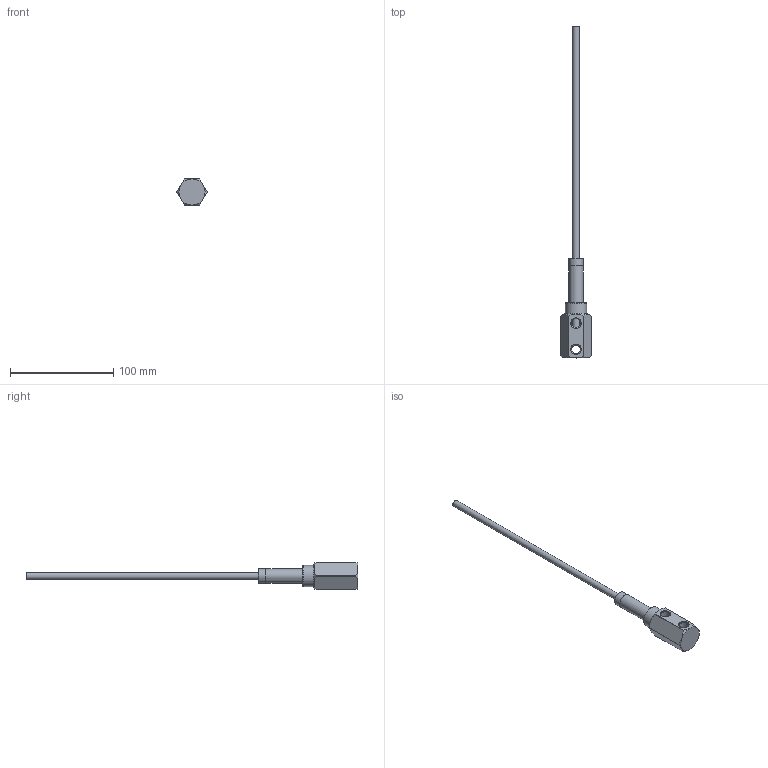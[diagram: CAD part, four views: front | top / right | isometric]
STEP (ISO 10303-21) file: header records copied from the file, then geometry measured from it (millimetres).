
FILE_DESCRIPTION(/* description */ (''),/* implementation_level */ '2;1');
FILE_NAME(/* name */ 'C:/Users/drich/Desktop/141N-HFT v1.step',/* time_stamp */ '2020-01-15T19:37:09-06:00',/* author */ (''),/* organization */ (''),/* preprocessor_version */ 'ST-DEVELOPER v18',/* originating_system */ 'Autodesk Translation Framework v8.12.0.6',/* authorisation */ '');
FILE_SCHEMA (('AUTOMOTIVE_DESIGN { 1 0 10303 214 3 1 1 }'));
Length unit declared in the file: inch
Products named in the file (4): 141N-HFT; 141H; SSPN14-2; HF250T-12
Assembly tree (3 placements, depth 2):
  141N-HFT
    141H
    SSPN14-2
    HF250T-12
Bounding box: 29.26 x 321.39 x 25.4 mm (x, y, z)
Volume: 27509.7 mm3; surface area: 22817.4 mm2
Topology: 3 solids, 3 shells, 55 faces, 148 edges, 101 vertices
Faces by surface type: cylinder 21, plane 17, cone 12, torus 5
Full cylindrical faces by diameter (mm): 5.842 x1, 6.35 x1, 6.909 x1, 7.818 x1, 7.976 x1, 8.707 x3, 9.246 x1, 11.668 x1, 13.665 x2, 13.716 x1, 20.625 x1
Entity records: 2006 total; most frequent: CARTESIAN_POINT 436, DIRECTION 340, ORIENTED_EDGE 296, AXIS2_PLACEMENT_3D 151, EDGE_CURVE 148, VERTEX_POINT 101, CIRCLE 89, EDGE_LOOP 69
